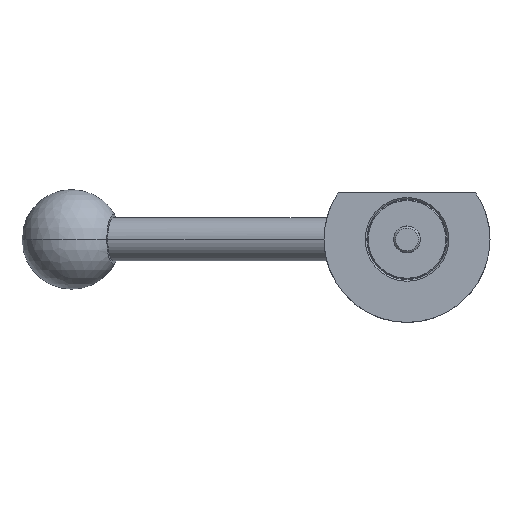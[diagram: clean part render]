
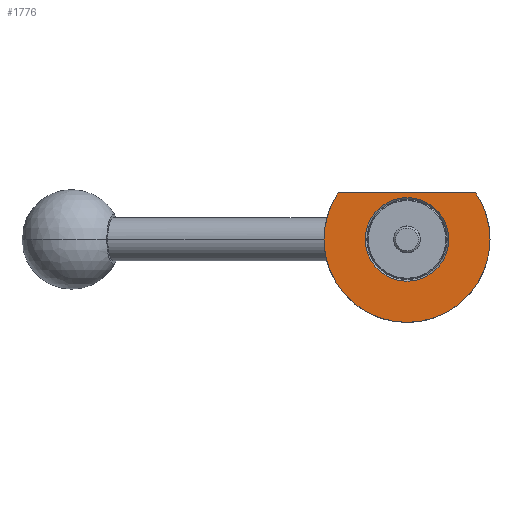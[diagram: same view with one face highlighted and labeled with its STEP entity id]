
A CAD part, front view. The second image highlights one B-rep face of the part: STEP entity #1776.
In plain terms, the highlighted planar face has unit normal (0, -1, 0).
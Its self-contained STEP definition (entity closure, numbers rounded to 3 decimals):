
#2 = CARTESIAN_POINT ( 'NONE',  ( 20.712, -12., 14. ) ) ;
#14 = CIRCLE ( 'NONE', #537, 25. ) ;
#15 = DIRECTION ( 'NONE',  ( 0., -1., 0. ) ) ;
#43 = AXIS2_PLACEMENT_3D ( 'NONE', #664, #1113, #1885 ) ;
#119 = VERTEX_POINT ( 'NONE', #1102 ) ;
#139 = AXIS2_PLACEMENT_3D ( 'NONE', #482, #1287, #955 ) ;
#175 = ORIENTED_EDGE ( 'NONE', *, *, #184, .F. ) ;
#184 = EDGE_CURVE ( 'NONE', #238, #119, #1020, .T. ) ;
#216 = ORIENTED_EDGE ( 'NONE', *, *, #1068, .T. ) ;
#238 = VERTEX_POINT ( 'NONE', #986 ) ;
#334 = VECTOR ( 'NONE', #1834, 1000. ) ;
#357 = CARTESIAN_POINT ( 'NONE',  ( -12.6, -12., 0. ) ) ;
#456 = CARTESIAN_POINT ( 'NONE',  ( 0., -12., 0. ) ) ;
#461 = PLANE ( 'NONE',  #503 ) ;
#482 = CARTESIAN_POINT ( 'NONE',  ( 0., -12., 0. ) ) ;
#483 = EDGE_CURVE ( 'NONE', #673, #583, #1612, .T. ) ;
#503 = AXIS2_PLACEMENT_3D ( 'NONE', #1098, #15, #625 ) ;
#537 = AXIS2_PLACEMENT_3D ( 'NONE', #456, #1095, #791 ) ;
#557 = EDGE_LOOP ( 'NONE', ( #751, #216, #1792, #175 ) ) ;
#578 = CARTESIAN_POINT ( 'NONE',  ( 0., -12., 0. ) ) ;
#583 = VERTEX_POINT ( 'NONE', #918 ) ;
#593 = DIRECTION ( 'NONE',  ( -1., 0., 0. ) ) ;
#625 = DIRECTION ( 'NONE',  ( 1., 0., 0. ) ) ;
#664 = CARTESIAN_POINT ( 'NONE',  ( 0., -12., 0. ) ) ;
#673 = VERTEX_POINT ( 'NONE', #357 ) ;
#679 = ORIENTED_EDGE ( 'NONE', *, *, #483, .T. ) ;
#715 = CARTESIAN_POINT ( 'NONE',  ( 0., -12., 0. ) ) ;
#717 = LINE ( 'NONE', #920, #334 ) ;
#751 = ORIENTED_EDGE ( 'NONE', *, *, #1523, .F. ) ;
#791 = DIRECTION ( 'NONE',  ( -1., 0., 0. ) ) ;
#810 = EDGE_CURVE ( 'NONE', #583, #673, #1844, .T. ) ;
#819 = ORIENTED_EDGE ( 'NONE', *, *, #810, .T. ) ;
#839 = VERTEX_POINT ( 'NONE', #2 ) ;
#891 = AXIS2_PLACEMENT_3D ( 'NONE', #715, #1670, #593 ) ;
#918 = CARTESIAN_POINT ( 'NONE',  ( 12.6, -12., 0. ) ) ;
#920 = CARTESIAN_POINT ( 'NONE',  ( -12.6, -12., 14. ) ) ;
#952 = AXIS2_PLACEMENT_3D ( 'NONE', #578, #1175, #1775 ) ;
#955 = DIRECTION ( 'NONE',  ( -1., 0., 0. ) ) ;
#986 = CARTESIAN_POINT ( 'NONE',  ( 25., -12., 0. ) ) ;
#1020 = CIRCLE ( 'NONE', #139, 25. ) ;
#1068 = EDGE_CURVE ( 'NONE', #839, #1678, #717, .T. ) ;
#1095 = DIRECTION ( 'NONE',  ( 0., 1., 0. ) ) ;
#1098 = CARTESIAN_POINT ( 'NONE',  ( -12.6, -12., 0. ) ) ;
#1102 = CARTESIAN_POINT ( 'NONE',  ( -25., -12., 0. ) ) ;
#1113 = DIRECTION ( 'NONE',  ( 0., 1., 0. ) ) ;
#1175 = DIRECTION ( 'NONE',  ( 0., 1., 0. ) ) ;
#1239 = EDGE_CURVE ( 'NONE', #119, #1678, #1713, .T. ) ;
#1287 = DIRECTION ( 'NONE',  ( 0., 1., 0. ) ) ;
#1433 = EDGE_LOOP ( 'NONE', ( #819, #679 ) ) ;
#1523 = EDGE_CURVE ( 'NONE', #839, #238, #14, .T. ) ;
#1568 = FACE_BOUND ( 'NONE', #1433, .T. ) ;
#1612 = CIRCLE ( 'NONE', #891, 12.6 ) ;
#1670 = DIRECTION ( 'NONE',  ( 0., 1., 0. ) ) ;
#1678 = VERTEX_POINT ( 'NONE', #1925 ) ;
#1713 = CIRCLE ( 'NONE', #43, 25. ) ;
#1775 = DIRECTION ( 'NONE',  ( -1., 0., 0. ) ) ;
#1776 = ADVANCED_FACE ( 'NONE', ( #1568, #1875 ), #461, .T. ) ;
#1792 = ORIENTED_EDGE ( 'NONE', *, *, #1239, .F. ) ;
#1834 = DIRECTION ( 'NONE',  ( -1., 0., 0. ) ) ;
#1844 = CIRCLE ( 'NONE', #952, 12.6 ) ;
#1875 = FACE_OUTER_BOUND ( 'NONE', #557, .T. ) ;
#1885 = DIRECTION ( 'NONE',  ( -1., 0., 0. ) ) ;
#1925 = CARTESIAN_POINT ( 'NONE',  ( -20.712, -12., 14. ) ) ;
